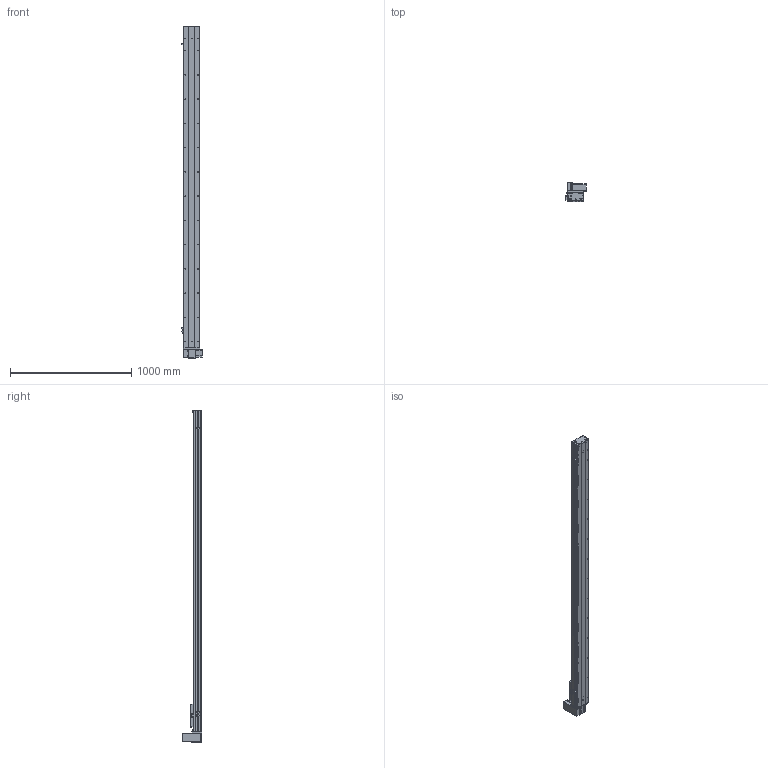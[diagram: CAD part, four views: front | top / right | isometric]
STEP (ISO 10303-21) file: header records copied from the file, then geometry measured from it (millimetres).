
FILE_DESCRIPTION (( 'STEP AP203' ), '1' );
FILE_NAME ('Y135CB-D90-S2350-UR-P400W.STEP', '2020-02-18T06:33:42', ( '微软用户' ), ( '微软中国' ), 'SwSTEP 2.0', 'SolidWorks 2017', '' );
FILE_SCHEMA (( 'CONFIG_CONTROL_DESIGN' ));
Length unit declared in the file: millimetre
Products named in the file (18): C-雄赽釱--; 0B-萇儂楊擘啣; Y10B--々湍喘謫眊--666; san松下电机400不带刹车----; 5CB --掛极耜裔啣-; Y10B-耜蚾蟀諉啣----; C-詩湍揤踡え-陔; Y135CB-耜裔; 00B-俋欶BM--; 135CB--詩湍-CE; 135CB---遴掛极.-; Y135CB-D90-S2350-UR-P400W; Y100-135俋离換覜ん--; 35CB---喘謫眊楊擘啣; Y135C-陔俋离換覜結え-; 0B-埴倛裔啣; 5C--俋欶; 0B-源倛裔啣
Assembly tree (21 placements, depth 2):
  Y135CB-D90-S2350-UR-P400W
    Y135CB-耜裔
    135CB---遴掛极.-
    35CB---喘謫眊楊擘啣
    0B-埴倛裔啣
    0B-源倛裔啣
    0B-萇儂楊擘啣
    san松下电机400不带刹车----
    5CB --掛极耜裔啣-  x2
    C-詩湍揤踡え-陔  x2
    135CB--詩湍-CE
    Y100-135俋离換覜ん--  x3
    Y135C-陔俋离換覜結え-
    5C--俋欶
    C-雄赽釱--
    Y10B--々湍喘謫眊--666
    Y10B-耜蚾蟀諉啣----
    00B-俋欶BM--
Bounding box: 167.5 x 158.7 x 2738 mm (x, y, z)
Volume: 7892225.9 mm3; surface area: 3123650.9 mm2
Topology: 21 solids, 21 shells, 973 faces, 2653 edges, 1758 vertices
Faces by surface type: cylinder 501, plane 456, cone 16
Entity records: 30763 total; most frequent: CARTESIAN_POINT 5120, DIRECTION 5113, ORIENTED_EDGE 4782, EDGE_CURVE 2391, AXIS2_PLACEMENT_3D 1875, VERTEX_POINT 1586, LINE 1363, VECTOR 1363
